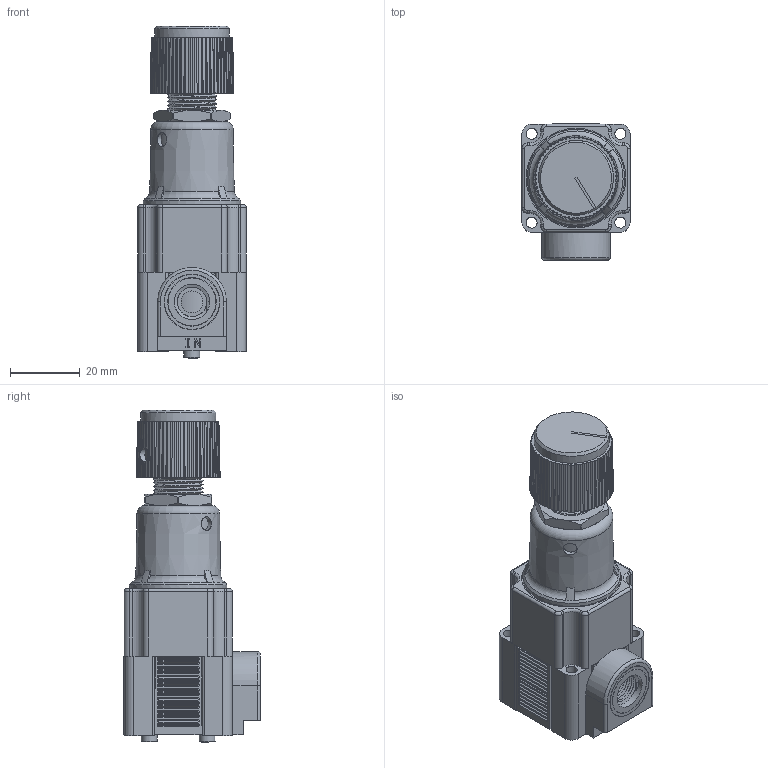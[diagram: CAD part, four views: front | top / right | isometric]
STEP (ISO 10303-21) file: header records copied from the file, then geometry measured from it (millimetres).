
FILE_DESCRIPTION(/* description */ (''),/* implementation_level */ '2;1');
FILE_NAME(/* name */ 'K:\Normteile INVENTOR\Air-Logic\Regulators\R6000\R 6___ 1 1''8-27 NPT Threads In.igs.ipt.stp',/* time_stamp */ '2020-05-27T10:56:50+02:00',/* author */ ('Paul'),/* organization */ (''),/* preprocessor_version */ 'ST-DEVELOPER v18',/* originating_system */ 'Autodesk Inventor 2020',/* authorisation */ '');
FILE_SCHEMA (('AUTOMOTIVE_DESIGN { 1 0 10303 214 3 1 1 }'));
Length unit declared in the file: inch
Products named in the file (1): R 6___ 1 1'8-27 NPT Threads In.igs
Bounding box: 31.19 x 39.06 x 95.02 mm (x, y, z)
Volume: 58415.3 mm3; surface area: 18589.2 mm2
Topology: 1 solids, 1 shells, 1002 faces, 2604 edges, 1681 vertices
Faces by surface type: plane 496, cylinder 366, cone 83, torus 32, bspline 25
Full cylindrical faces by diameter (mm): 1.194 x1, 2.032 x1, 3.124 x2, 3.175 x8, 3.988 x1, 4.064 x1, 4.521 x2, 6.248 x1, 8.382 x2, 8.458 x7, 9.169 x1, 9.652 x1, 10.163 x7, 12.903 x1, 13.716 x1, 13.872 x1, 15.707 x1, 15.913 x1, 19.406 x1, 21.476 x1, 27.94 x1, 28.575 x1
Entity records: 39668 total; most frequent: CARTESIAN_POINT 13529, DIRECTION 5456, ORIENTED_EDGE 5208, EDGE_CURVE 2604, AXIS2_PLACEMENT_3D 2105, VERTEX_POINT 1681, LINE 1246, VECTOR 1246
